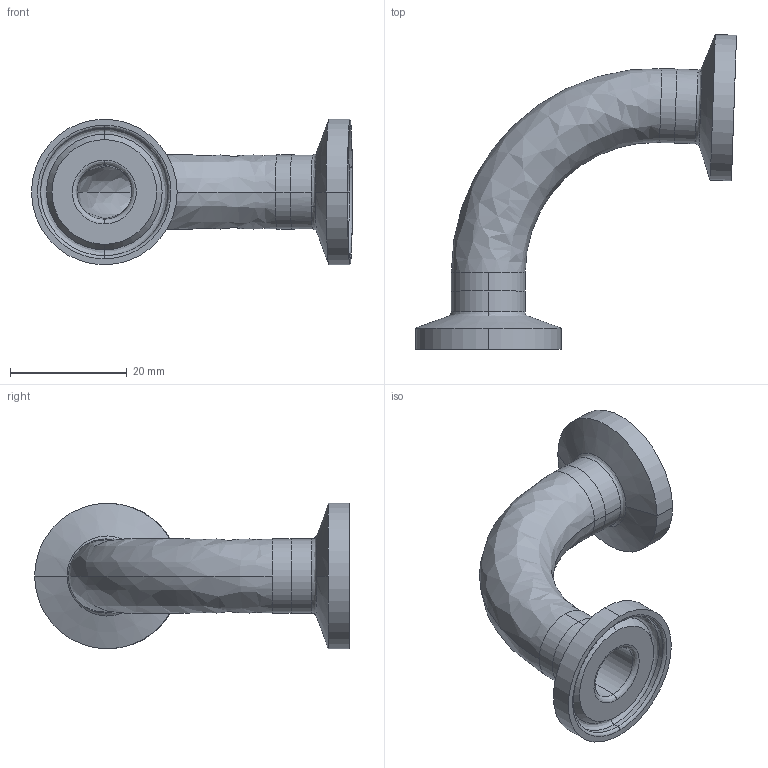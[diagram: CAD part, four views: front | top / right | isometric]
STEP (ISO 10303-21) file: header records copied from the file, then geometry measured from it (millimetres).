
FILE_DESCRIPTION (( 'STEP AP214' ), '1' );
FILE_NAME ('TEG2C926L.5-...STEP', '2016-05-22T11:32:29', ( 'eran' ), ( '' ), 'SwSTEP 2.0', 'SolidWorks 2016', '' );
FILE_SCHEMA (( 'AUTOMOTIVE_DESIGN' ));
Length unit declared in the file: millimetre
Products named in the file (1): TEG2C926L.5-..
Bounding box: 55.09 x 54.02 x 24.99 mm (x, y, z)
Volume: 6743.3 mm3; surface area: 7156 mm2
Topology: 3 solids, 3 shells, 60 faces, 140 edges, 88 vertices
Faces by surface type: cylinder 24, bspline 20, plane 8, cone 8
Entity records: 2040 total; most frequent: CARTESIAN_POINT 613, DIRECTION 314, ORIENTED_EDGE 280, AXIS2_PLACEMENT_3D 141, EDGE_CURVE 140, CIRCLE 100, VERTEX_POINT 88, EDGE_LOOP 68
